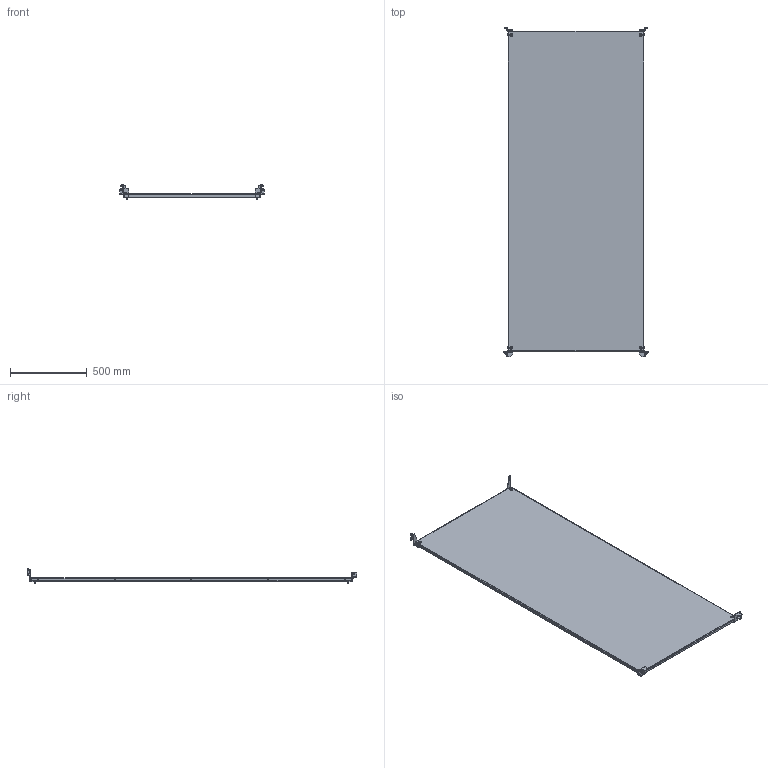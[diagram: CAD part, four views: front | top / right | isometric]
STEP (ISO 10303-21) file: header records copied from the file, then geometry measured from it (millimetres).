
FILE_DESCRIPTION(('STEP AP203'), '1');
FILE_NAME('3522.220.100 Ïàíåëü ìîíòàæíàÿ', '', ('UNSPECIFIED'), ('UNSPECIFIED'), 'C3D Converter', 'C3D Toolkit', '');
FILE_SCHEMA(('CONFIG_CONTROL_DESIGN'));
Length unit declared in the file: millimetre
Products named in the file (1): 3522.220.100
Bounding box: 938.8 x 2150.5 x 101.8 mm (x, y, z)
Volume: 6227020.2 mm3; surface area: 4180334.4 mm2
Topology: 12 solids, 12 shells, 812 faces, 2149 edges, 1399 vertices
Faces by surface type: plane 474, cylinder 200, bspline 80, cone 30, torus 18, sphere 10
Full cylindrical faces by diameter (mm): 3 x4, 4.8 x10, 4.917 x4, 6 x14, 6.4 x4, 7 x10, 7.6 x4, 9.5 x10, 10 x4, 18 x4, 20 x4
Entity records: 38209 total; most frequent: CARTESIAN_POINT 12046, ORIENTED_EDGE 4024, DIRECTION 3882, EDGE_CURVE 2012, VERTEX_POINT 1392, AXIS2_PLACEMENT_3D 1375, LINE 1132, VECTOR 1132
